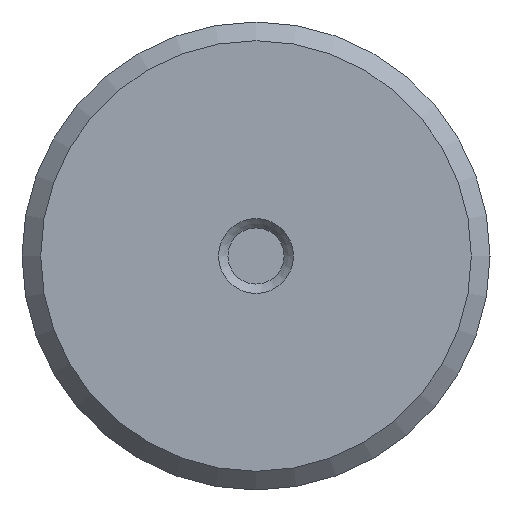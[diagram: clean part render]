
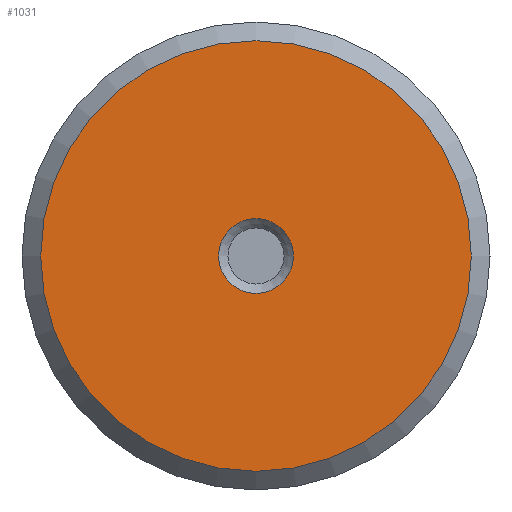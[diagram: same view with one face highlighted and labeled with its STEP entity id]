
A CAD part, left-side view. The second image highlights one B-rep face of the part: STEP entity #1031.
In plain terms, the highlighted planar face has unit normal (-1, 0, 0).
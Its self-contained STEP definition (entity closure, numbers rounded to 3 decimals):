
#86=FACE_BOUND('',#248,.T.);
#108=PLANE('',#1162);
#189=FACE_OUTER_BOUND('',#247,.T.);
#247=EDGE_LOOP('',(#965,#966));
#248=EDGE_LOOP('',(#967,#968));
#410=CIRCLE('',#1160,2.);
#411=CIRCLE('',#1161,2.);
#412=CIRCLE('',#1163,11.5);
#413=CIRCLE('',#1164,11.5);
#515=VERTEX_POINT('',#2089);
#516=VERTEX_POINT('',#2091);
#517=VERTEX_POINT('',#2095);
#518=VERTEX_POINT('',#2096);
#666=EDGE_CURVE('',#516,#515,#410,.T.);
#667=EDGE_CURVE('',#515,#516,#411,.T.);
#668=EDGE_CURVE('',#517,#518,#412,.T.);
#669=EDGE_CURVE('',#518,#517,#413,.T.);
#965=ORIENTED_EDGE('',*,*,#668,.F.);
#966=ORIENTED_EDGE('',*,*,#669,.F.);
#967=ORIENTED_EDGE('',*,*,#666,.T.);
#968=ORIENTED_EDGE('',*,*,#667,.T.);
#1031=ADVANCED_FACE('',(#189,#86),#108,.T.);
#1160=AXIS2_PLACEMENT_3D('',#2092,#1436,#1437);
#1161=AXIS2_PLACEMENT_3D('',#2093,#1438,#1439);
#1162=AXIS2_PLACEMENT_3D('',#2094,#1440,#1441);
#1163=AXIS2_PLACEMENT_3D('',#2097,#1442,#1443);
#1164=AXIS2_PLACEMENT_3D('',#2098,#1444,#1445);
#1436=DIRECTION('center_axis',(1.,0.,0.));
#1437=DIRECTION('ref_axis',(0.,0.,-1.));
#1438=DIRECTION('center_axis',(1.,0.,0.));
#1439=DIRECTION('ref_axis',(0.,0.,-1.));
#1440=DIRECTION('center_axis',(-1.,0.,0.));
#1441=DIRECTION('ref_axis',(0.,0.,1.));
#1442=DIRECTION('center_axis',(1.,0.,0.));
#1443=DIRECTION('ref_axis',(0.,0.,-1.));
#1444=DIRECTION('center_axis',(1.,0.,0.));
#1445=DIRECTION('ref_axis',(0.,0.,-1.));
#2089=CARTESIAN_POINT('',(-125.5,-2.,0.));
#2091=CARTESIAN_POINT('',(-125.5,2.,0.));
#2092=CARTESIAN_POINT('Origin',(-125.5,0.,0.));
#2093=CARTESIAN_POINT('Origin',(-125.5,0.,0.));
#2094=CARTESIAN_POINT('Origin',(-125.5,11.5,0.));
#2095=CARTESIAN_POINT('',(-125.5,11.5,0.));
#2096=CARTESIAN_POINT('',(-125.5,-11.5,0.));
#2097=CARTESIAN_POINT('Origin',(-125.5,0.,0.));
#2098=CARTESIAN_POINT('Origin',(-125.5,0.,0.));
